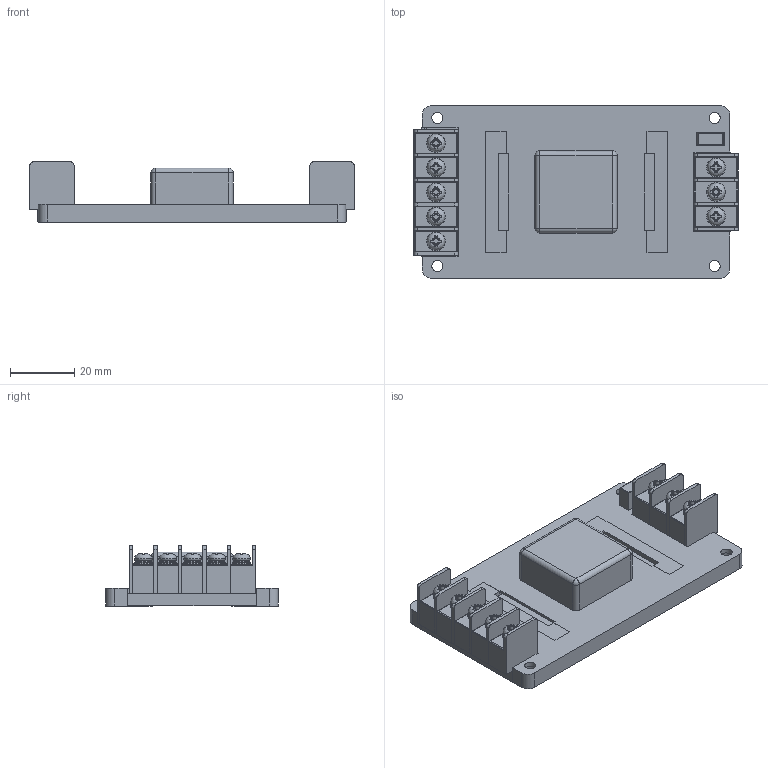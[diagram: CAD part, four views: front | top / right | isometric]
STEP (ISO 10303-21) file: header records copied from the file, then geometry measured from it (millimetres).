
FILE_DESCRIPTION(/* description */ (''),/* implementation_level */ '2;1');
FILE_NAME(/* name */ 'D:\Inventor\3D Files\200430\SW20F - A5.stp',/* time_stamp */ '2020-04-24T16:43:54+08:00',/* author */ ('peter'),/* organization */ (''),/* preprocessor_version */ 'ST-DEVELOPER v15.2',/* originating_system */ 'Autodesk Inventor 2014',/* authorisation */ '');
FILE_SCHEMA (('AUTOMOTIVE_DESIGN { 1 0 10303 214 3 1 1 }'));
Length unit declared in the file: millimetre
Products named in the file (13): PCB; TOP CASE - A2; BOT CASE - A2 _ TRACO; INLET 7R62 mm OPEN; INLET 7R62 mm - L; SCREW CH_W  M3_6mm; INLET - IN; INLET - 3PIN; INLET - OUT; HOLDER - AHC AFC; A5 ASSEMBLY; SW20F for A2_5; SW20F - A5
Bounding box: 100.65 x 53.51 x 18.7 mm (x, y, z)
Volume: 40720.9 mm3; surface area: 47191.6 mm2
Topology: 45 solids, 45 shells, 869 faces, 2141 edges, 1407 vertices
Faces by surface type: plane 595, cylinder 162, torus 60, cone 39, bspline 9, sphere 4
Full cylindrical faces by diameter (mm): 1 x6, 1.39 x4, 3 x18, 3.1 x9, 3.476 x4, 3.5 x11, 3.972 x1, 5.5 x4, 5.8 x9
Entity records: 11106 total; most frequent: CARTESIAN_POINT 1982, DIRECTION 1818, ORIENTED_EDGE 1748, EDGE_CURVE 874, LINE 682, VECTOR 682, VERTEX_POINT 601, AXIS2_PLACEMENT_3D 568
